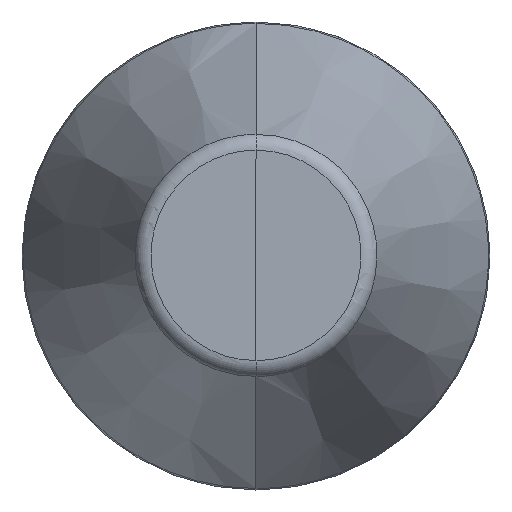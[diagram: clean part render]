
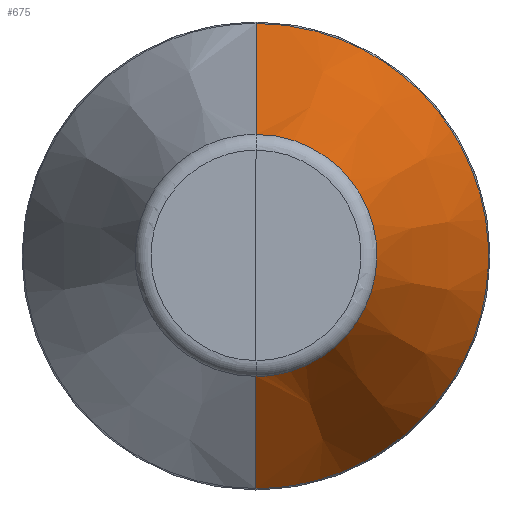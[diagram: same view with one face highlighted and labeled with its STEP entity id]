
A CAD part, top view. The second image highlights one B-rep face of the part: STEP entity #675.
In plain terms, the highlighted conical face has half-angle 19.263 degrees and reference radius 90.056 mm.
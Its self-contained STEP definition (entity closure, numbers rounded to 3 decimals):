
#20=CONICAL_SURFACE('',#757,90.056,0.336);
#32=B_SPLINE_CURVE_WITH_KNOTS('',3,(#1154,#1155,#1156,#1157,#1158,#1159,
#1160,#1161,#1162,#1163),.UNSPECIFIED.,.F.,.F.,(4,1,1,1,1,1,1,4),(0.,0.143,
0.286,0.429,0.571,0.714,
0.857,1.),.UNSPECIFIED.);
#36=B_SPLINE_CURVE_WITH_KNOTS('',3,(#1312,#1313,#1314,#1315,#1316,#1317,
#1318,#1319,#1320,#1321,#1322,#1323),.UNSPECIFIED.,.F.,.F.,(4,1,1,1,1,1,
1,1,1,4),(0.,0.111,0.222,0.333,0.444,
0.556,0.667,0.778,0.889,
1.),.UNSPECIFIED.);
#103=FACE_OUTER_BOUND('',#158,.T.);
#158=EDGE_LOOP('',(#548,#549,#550,#551));
#195=LINE('',#1324,#225);
#196=LINE('',#1325,#226);
#225=VECTOR('',#935,304.8);
#226=VECTOR('',#936,304.8);
#322=VERTEX_POINT('',#1152);
#323=VERTEX_POINT('',#1153);
#324=VERTEX_POINT('',#1310);
#325=VERTEX_POINT('',#1311);
#397=EDGE_CURVE('',#322,#323,#32,.T.);
#401=EDGE_CURVE('',#324,#325,#36,.T.);
#402=EDGE_CURVE('',#322,#324,#195,.T.);
#403=EDGE_CURVE('',#325,#323,#196,.T.);
#548=ORIENTED_EDGE('',*,*,#401,.F.);
#549=ORIENTED_EDGE('',*,*,#402,.F.);
#550=ORIENTED_EDGE('',*,*,#397,.T.);
#551=ORIENTED_EDGE('',*,*,#403,.F.);
#675=ADVANCED_FACE('',(#103),#20,.T.);
#757=AXIS2_PLACEMENT_3D('',#1309,#933,#934);
#933=DIRECTION('center_axis',(0.,0.,
-1.));
#934=DIRECTION('ref_axis',(1.,0.,0.));
#935=DIRECTION('',(0.,0.33,-0.944));
#936=DIRECTION('',(0.,0.33,0.944));
#1152=CARTESIAN_POINT('',(0.,49.205,157.608));
#1153=CARTESIAN_POINT('',(0.,-49.205,157.608));
#1154=CARTESIAN_POINT('Ctrl Pts',(0.,49.205,
157.608));
#1155=CARTESIAN_POINT('Ctrl Pts',(7.411,49.312,157.608));
#1156=CARTESIAN_POINT('Ctrl Pts',(22.054,45.795,157.608));
#1157=CARTESIAN_POINT('Ctrl Pts',(39.789,31.74,157.608));
#1158=CARTESIAN_POINT('Ctrl Pts',(49.607,11.318,157.608));
#1159=CARTESIAN_POINT('Ctrl Pts',(49.607,-11.318,157.608));
#1160=CARTESIAN_POINT('Ctrl Pts',(39.789,-31.74,157.608));
#1161=CARTESIAN_POINT('Ctrl Pts',(22.054,-45.795,157.608));
#1162=CARTESIAN_POINT('Ctrl Pts',(7.411,-49.312,157.608));
#1163=CARTESIAN_POINT('Ctrl Pts',(0.,-49.205,
157.608));
#1309=CARTESIAN_POINT('Origin',(0.,0.,40.713));
#1310=CARTESIAN_POINT('',(0.,94.595,27.724));
#1311=CARTESIAN_POINT('',(0.,-94.595,27.724));
#1312=CARTESIAN_POINT('Ctrl Pts',(0.,94.595,
27.724));
#1313=CARTESIAN_POINT('Ctrl Pts',(11.035,94.674,27.724));
#1314=CARTESIAN_POINT('Ctrl Pts',(33.004,90.678,27.724));
#1315=CARTESIAN_POINT('Ctrl Pts',(62.056,73.961,27.724));
#1316=CARTESIAN_POINT('Ctrl Pts',(83.602,48.265,27.724));
#1317=CARTESIAN_POINT('Ctrl Pts',(95.07,16.764,27.724));
#1318=CARTESIAN_POINT('Ctrl Pts',(95.07,-16.764,27.724));
#1319=CARTESIAN_POINT('Ctrl Pts',(83.602,-48.265,27.724));
#1320=CARTESIAN_POINT('Ctrl Pts',(62.056,-73.961,27.724));
#1321=CARTESIAN_POINT('Ctrl Pts',(33.004,-90.678,27.724));
#1322=CARTESIAN_POINT('Ctrl Pts',(11.035,-94.674,27.724));
#1323=CARTESIAN_POINT('Ctrl Pts',(0.,-94.595,
27.724));
#1324=CARTESIAN_POINT('',(0.,49.205,157.608));
#1325=CARTESIAN_POINT('',(0.,-94.595,27.724));
